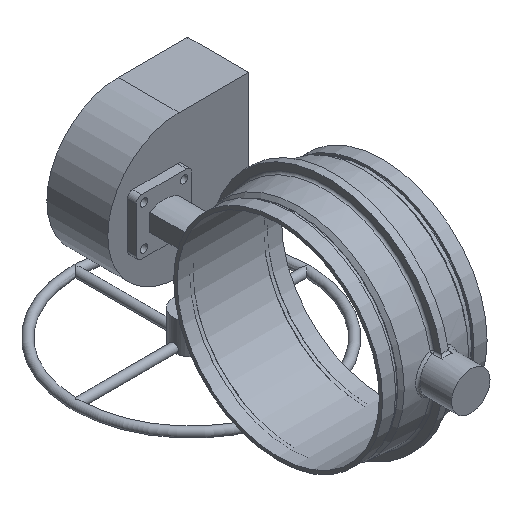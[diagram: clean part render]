
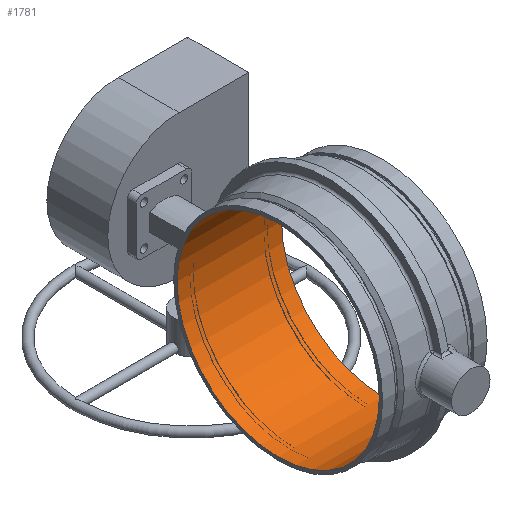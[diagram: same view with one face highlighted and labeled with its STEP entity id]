
A CAD part, isometric view. The second image highlights one B-rep face of the part: STEP entity #1781.
In plain terms, the highlighted cylindrical face has radius 295.021 mm (diameter 590.042 mm), a full revolution.
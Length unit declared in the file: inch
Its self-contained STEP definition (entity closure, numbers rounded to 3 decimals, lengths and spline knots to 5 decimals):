
#165=CIRCLE('',#1990,11.615);
#166=CIRCLE('',#1991,11.615);
#167=CIRCLE('',#1993,11.615);
#168=CIRCLE('',#1994,11.615);
#291=FACE_OUTER_BOUND('',#395,.T.);
#395=EDGE_LOOP('',(#1528,#1529,#1530,#1531,#1532,#1533));
#467=LINE('',#3917,#536);
#536=VECTOR('',#2450,11.615);
#780=VERTEX_POINT('',#3911);
#781=VERTEX_POINT('',#3912);
#782=VERTEX_POINT('',#3916);
#783=VERTEX_POINT('',#3918);
#1034=EDGE_CURVE('',#780,#781,#165,.T.);
#1035=EDGE_CURVE('',#781,#780,#166,.T.);
#1036=EDGE_CURVE('',#781,#782,#467,.T.);
#1037=EDGE_CURVE('',#783,#782,#167,.T.);
#1038=EDGE_CURVE('',#782,#783,#168,.T.);
#1528=ORIENTED_EDGE('',*,*,#1034,.T.);
#1529=ORIENTED_EDGE('',*,*,#1036,.T.);
#1530=ORIENTED_EDGE('',*,*,#1037,.F.);
#1531=ORIENTED_EDGE('',*,*,#1038,.F.);
#1532=ORIENTED_EDGE('',*,*,#1036,.F.);
#1533=ORIENTED_EDGE('',*,*,#1035,.T.);
#1596=CYLINDRICAL_SURFACE('',#1992,11.615);
#1781=ADVANCED_FACE('',(#291),#1596,.F.);
#1990=AXIS2_PLACEMENT_3D('',#3913,#2444,#2445);
#1991=AXIS2_PLACEMENT_3D('',#3914,#2446,#2447);
#1992=AXIS2_PLACEMENT_3D('',#3915,#2448,#2449);
#1993=AXIS2_PLACEMENT_3D('',#3919,#2451,#2452);
#1994=AXIS2_PLACEMENT_3D('',#3920,#2453,#2454);
#2444=DIRECTION('center_axis',(1.,0.,0.));
#2445=DIRECTION('ref_axis',(0.,1.,0.));
#2446=DIRECTION('center_axis',(1.,0.,0.));
#2447=DIRECTION('ref_axis',(0.,1.,0.));
#2448=DIRECTION('center_axis',(1.,0.,0.));
#2449=DIRECTION('ref_axis',(0.,1.,0.));
#2450=DIRECTION('',(-1.,0.,0.));
#2451=DIRECTION('center_axis',(1.,0.,0.));
#2452=DIRECTION('ref_axis',(0.,1.,0.));
#2453=DIRECTION('center_axis',(1.,0.,0.));
#2454=DIRECTION('ref_axis',(0.,1.,0.));
#3911=CARTESIAN_POINT('',(6.,11.615,0.));
#3912=CARTESIAN_POINT('',(6.,-11.615,0.));
#3913=CARTESIAN_POINT('Origin',(6.,0.,0.));
#3914=CARTESIAN_POINT('Origin',(6.,0.,0.));
#3915=CARTESIAN_POINT('Origin',(0.,0.,0.));
#3916=CARTESIAN_POINT('',(-6.,-11.615,0.));
#3917=CARTESIAN_POINT('',(0.,-11.615,0.));
#3918=CARTESIAN_POINT('',(-6.,11.615,0.));
#3919=CARTESIAN_POINT('Origin',(-6.,0.,0.));
#3920=CARTESIAN_POINT('Origin',(-6.,0.,0.));
